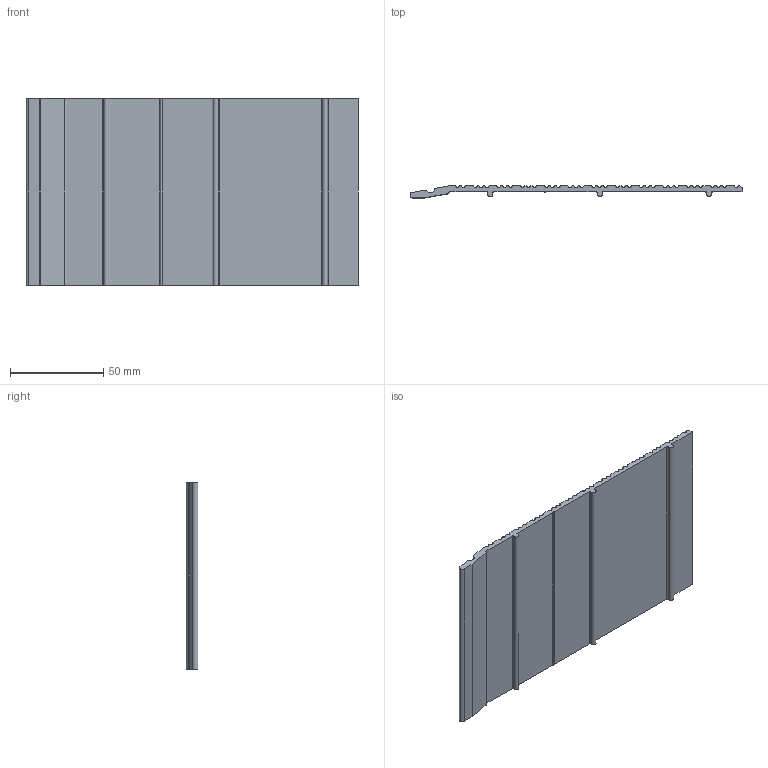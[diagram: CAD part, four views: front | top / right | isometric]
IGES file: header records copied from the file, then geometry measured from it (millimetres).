
Global section: file name: No Iges File Name specified; native system: Autodesk Inventor 2012; preprocessor: AutoDesk Inventor Iges Exporter R2012; author: anna.b; date: 20130718.121140; units: millimetre
Bounding box: 177.81 x 6.35 x 100 mm (x, y, z)
Volume: 52279 mm3; surface area: 41134.5 mm2
Topology: 1 solids, 1 shells, 186 faces, 552 edges, 368 vertices
Faces by surface type: cylinder 83, plane 56, revolution 47
